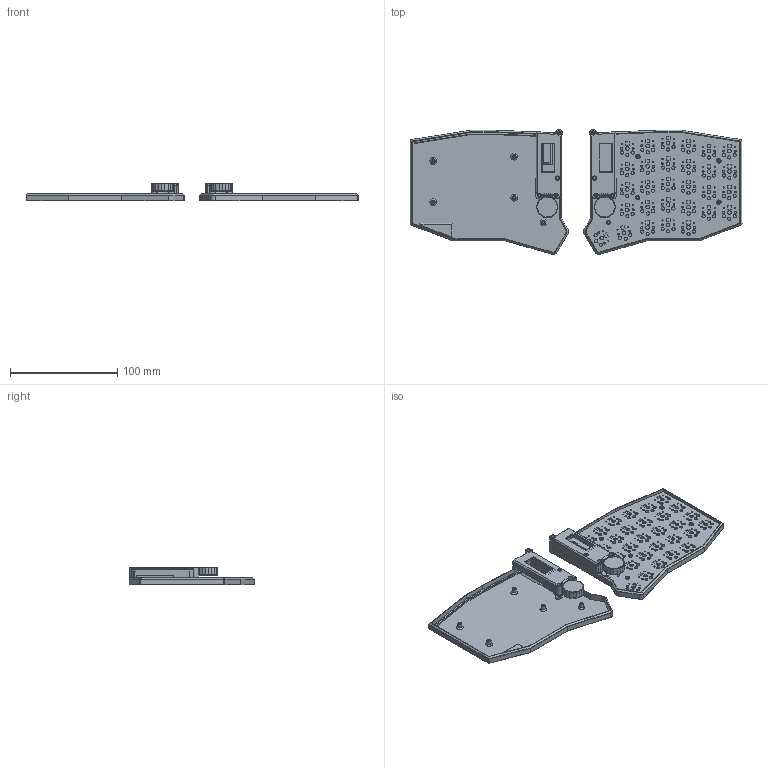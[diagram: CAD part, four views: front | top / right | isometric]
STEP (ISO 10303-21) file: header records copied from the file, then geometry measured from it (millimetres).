
FILE_DESCRIPTION(('HOOPS Exchange Step'),'2;1');
FILE_NAME('/private/var/mobile/Containers/Data/Application/BE3958D4-7A3D-4163-AB2C-3EDACD3FD9BB/tmp/export/temp_export','2023-07-08T17:54:48+09:30',('mobile'),('Shapr3D Limited'),'HOOPS Exchange 2022.2','Shapr3D','Authorized');
FILE_SCHEMA( ('AUTOMOTIVE_DESIGN { 1 0 10303 214 1 1 1 1 }') );
Length unit declared in the file: millimetre
Products named in the file (4): Left; Right; PCB; root
Assembly tree (3 placements, depth 2):
  root
    Left
    Right
    PCB
Bounding box: 309.59 x 116.63 x 16.65 mm (x, y, z)
Volume: 68055 mm3; surface area: 113229.9 mm2
Topology: 9 solids, 9 shells, 1570 faces, 4282 edges, 2777 vertices
Faces by surface type: plane 796, cylinder 554, cone 178, bspline 30, torus 12
Full cylindrical faces by diameter (mm): 0.813 x58, 1 x63, 1.2 x4, 1.3 x2, 1.8 x58, 2 x14, 2.2 x4, 2.4 x6, 2.5 x2, 3 x89, 3.4 x29, 3.8 x10, 4 x4, 4.1 x5, 6.2 x2, 9.2 x2, 16 x2
Entity records: 53822 total; most frequent: CARTESIAN_POINT 11681, DIRECTION 8636, ORIENTED_EDGE 8560, EDGE_CURVE 4280, AXIS2_PLACEMENT_3D 2962, VERTEX_POINT 2777, VECTOR 2712, LINE 2712
